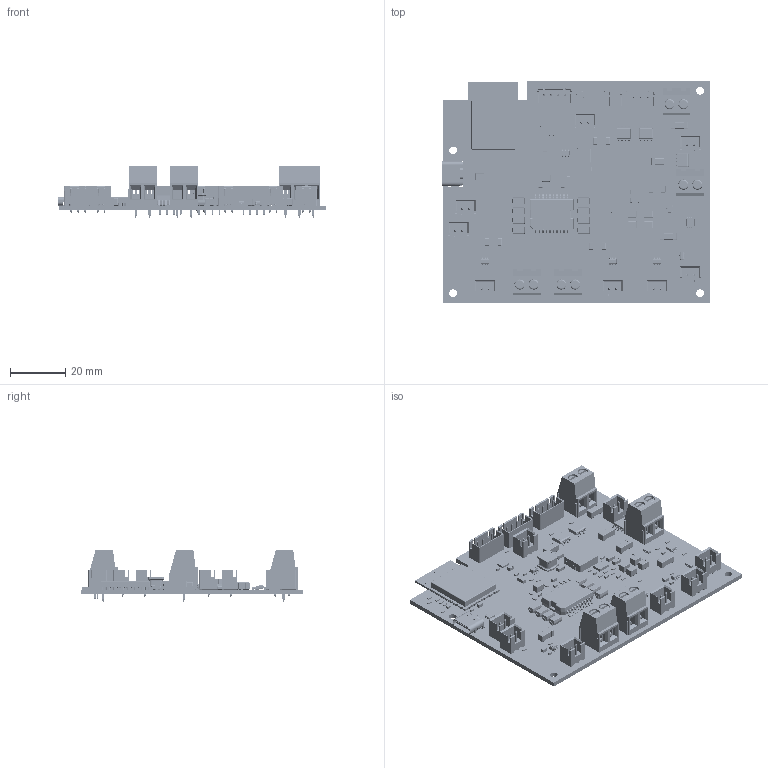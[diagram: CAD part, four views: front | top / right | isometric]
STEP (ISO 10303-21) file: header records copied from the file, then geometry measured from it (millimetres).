
FILE_DESCRIPTION(('Designed by EasyEDA Pro'),'2;1');
FILE_NAME('Open CASCADE Shape Model','2026-11-24T00:46:32',('Author'),( 'Open CASCADE'),'Open CASCADE STEP processor 7.8','Open CASCADE 7.8' ,'Unknown');
FILE_SCHEMA(('AUTOMOTIVE_DESIGN { 1 0 10303 214 1 1 1 1 }'));
Length unit declared in the file: millimetre
Products named in the file (150): EasyEDA PCB Model~ueJo; Board~ueJo; TopCopper~ueJo; BottomCopper~ueJo; TopSilkscreen~ueJo; BottomSilkscreen~ueJo; TopFpcStiffener~ueJo; BottomFpcStiffener~ueJo; C0402~C0402_L1.0-W0.5-H0.5~eQZ8; C17~C0402~C0402_L1.0-W0.5-H0.5~gwtD; C1210~C1210_L3.2-W2.5-H2.5~yIRr; C25~C1210~C1210_L3.2-W2.5-H2.5~0Iby; C20~C1210~C1210_L3.2-W2.5-H2.5~O4fK; C21~C1210~C1210_L3.2-W2.5-H2.5~2Rwk; C22~C1210~C1210_L3.2-W2.5-H2.5~QXMw; C23~C1210~C1210_L3.2-W2.5-H2.5~iN3H; C1206~C1206_L3.2-W1.6-H1.3~Sm4S; C7~C1206~C1206_L3.2-W1.6-H1.3~HJoK; C10~C1206~C1206_L3.2-W1.6-H1.3~yfnG; C11~C1206~C1206_L3.2-W1.6-H1.3~NwaI; C12~C1206~C1206_L3.2-W1.6-H1.3~7BhA; C13~C1206~C1206_L3.2-W1.6-H1.3~5Xzl; R0603~R0603~ulIC; R1~R0603~R0603~I82v; R2~R0603~R0603~6ynx; R3~R0603~R0603~XTdn; R4~R0603~R0603~QmWH; R5~R0603~R0603~UXXj; R6~R0603~R0603~VlA9; R7~R0603~R0603~C0bH; R8~R0603~R0603~iiYk; R9~R0603~R0603~o3ds; R10~R0603~R0603~smOV; R18~R0603~R0603~3NPQ; R19~R0603~R0603~rswS; R20~R0603~R0603~48Xh; R21~R0603~R0603~00ze; R22~R0603~R0603~tMqj; R23~R0603~R0603~yazJ; R11~R0603~R0603~W9bi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
Assembly tree (245 placements, depth 3):
  EasyEDA PCB Model~ueJo
    Board~ueJo
    TopCopper~ueJo
    BottomCopper~ueJo
    TopSilkscreen~ueJo
    BottomSilkscreen~ueJo
    TopFpcStiffener~ueJo
    BottomFpcStiffener~ueJo
    C17~C0402~C0402_L1.0-W0.5-H0.5~gwtD
      C0402~C0402_L1.0-W0.5-H0.5~eQZ8
    C25~C1210~C1210_L3.2-W2.5-H2.5~0Iby
      C1210~C1210_L3.2-W2.5-H2.5~yIRr
    C20~C1210~C1210_L3.2-W2.5-H2.5~O4fK
      C1210~C1210_L3.2-W2.5-H2.5~yIRr
    C21~C1210~C1210_L3.2-W2.5-H2.5~2Rwk
      C1210~C1210_L3.2-W2.5-H2.5~yIRr
    C22~C1210~C1210_L3.2-W2.5-H2.5~QXMw
      C1210~C1210_L3.2-W2.5-H2.5~yIRr
    C23~C1210~C1210_L3.2-W2.5-H2.5~iN3H
      C1210~C1210_L3.2-W2.5-H2.5~yIRr
    C7~C1206~C1206_L3.2-W1.6-H1.3~HJoK
      C1206~C1206_L3.2-W1.6-H1.3~Sm4S
    C10~C1206~C1206_L3.2-W1.6-H1.3~yfnG
      C1206~C1206_L3.2-W1.6-H1.3~Sm4S
    C11~C1206~C1206_L3.2-W1.6-H1.3~NwaI
      C1206~C1206_L3.2-W1.6-H1.3~Sm4S
    C12~C1206~C1206_L3.2-W1.6-H1.3~7BhA
      C1206~C1206_L3.2-W1.6-H1.3~Sm4S
    C13~C1206~C1206_L3.2-W1.6-H1.3~5Xzl
      C1206~C1206_L3.2-W1.6-H1.3~Sm4S
    R1~R0603~R0603~I82v
      R0603~R0603~ulIC
    R2~R0603~R0603~6ynx
      R0603~R0603~ulIC
    R3~R0603~R0603~XTdn
      R0603~R0603~ulIC
    R4~R0603~R0603~QmWH
      R0603~R0603~ulIC
    R5~R0603~R0603~UXXj
      R0603~R0603~ulIC
    R6~R0603~R0603~VlA9
      R0603~R0603~ulIC
    R7~R0603~R0603~C0bH
      R0603~R0603~ulIC
    R8~R0603~R0603~iiYk
      R0603~R0603~ulIC
    R9~R0603~R0603~o3ds
      R0603~R0603~ulIC
    R10~R0603~R0603~smOV
      R0603~R0603~ulIC
    R18~R0603~R0603~3NPQ
      R0603~R0603~ulIC
    R19~R0603~R0603~rswS
      R0603~R0603~ulIC
    R20~R0603~R0603~48Xh
      R0603~R0603~ulIC
    R21~R0603~R0603~00ze
      R0603~R0603~ulIC
    R22~R0603~R0603~tMqj
      R0603~R0603~ulIC
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Bounding box: 96.41 x 79.97 x 18.4 mm (x, y, z)
Volume: 20185.8 mm3; surface area: 33545.1 mm2
Topology: 656 solids, 656 shells, 43297 faces, 114378 edges, 74250 vertices
Faces by surface type: plane 25186, bspline 12905, cylinder 3830, sphere 810, torus 534, cone 32
Entity records: 505909 total; most frequent: CARTESIAN_POINT 120903, ORIENTED_EDGE 58612, DIRECTION 44362, EDGE_CURVE 29306, LINE 20052, VECTOR 20052, VERTEX_POINT 18773, AXIS2_PLACEMENT_3D 12155
